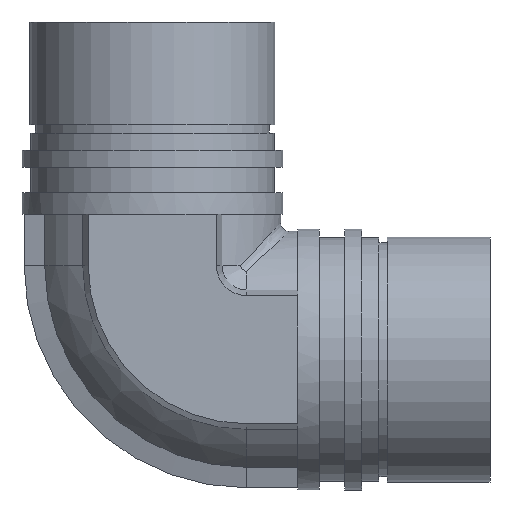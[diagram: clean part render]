
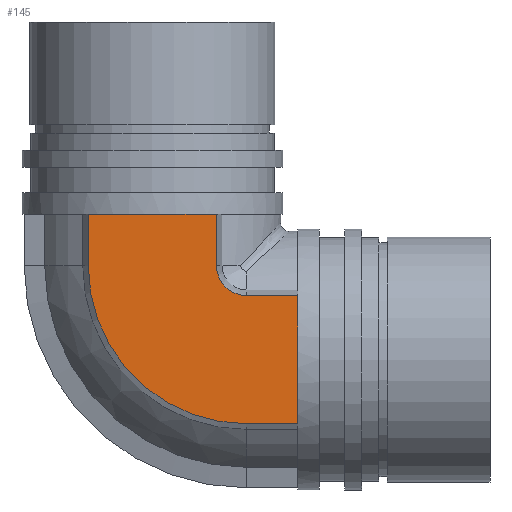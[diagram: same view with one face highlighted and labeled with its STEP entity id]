
A CAD part, front view. The second image highlights one B-rep face of the part: STEP entity #145.
In plain terms, the highlighted planar face has unit normal (0, -1, 0).
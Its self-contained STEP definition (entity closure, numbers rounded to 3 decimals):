
#145 = ADVANCED_FACE( '', ( #335 ), #336, .T. );
#335 = FACE_OUTER_BOUND( '', #813, .T. );
#336 = PLANE( '', #814 );
#813 = EDGE_LOOP( '', ( #1345, #1346, #1347, #1348, #1349, #1350, #1351, #1352, #1353, #1354, #1355, #1356 ) );
#814 = AXIS2_PLACEMENT_3D( '', #1357, #1358, #1359 );
#1345 = ORIENTED_EDGE( '', *, *, #1554, .F. );
#1346 = ORIENTED_EDGE( '', *, *, #1519, .F. );
#1347 = ORIENTED_EDGE( '', *, *, #1628, .F. );
#1348 = ORIENTED_EDGE( '', *, *, #1617, .T. );
#1349 = ORIENTED_EDGE( '', *, *, #1627, .F. );
#1350 = ORIENTED_EDGE( '', *, *, #1601, .F. );
#1351 = ORIENTED_EDGE( '', *, *, #1605, .F. );
#1352 = ORIENTED_EDGE( '', *, *, #1621, .F. );
#1353 = ORIENTED_EDGE( '', *, *, #1629, .T. );
#1354 = ORIENTED_EDGE( '', *, *, #1630, .T. );
#1355 = ORIENTED_EDGE( '', *, *, #1551, .F. );
#1356 = ORIENTED_EDGE( '', *, *, #1580, .F. );
#1357 = CARTESIAN_POINT( '', ( 11., -15., -7.5 ) );
#1358 = DIRECTION( '', ( 0., -1., 0. ) );
#1359 = DIRECTION( '', ( 0., 0., -1. ) );
#1519 = EDGE_CURVE( '', #1721, #1723, #1724, .T. );
#1551 = EDGE_CURVE( '', #1776, #1773, #1778, .T. );
#1554 = EDGE_CURVE( '', #1723, #1783, #1784, .T. );
#1580 = EDGE_CURVE( '', #1783, #1776, #1822, .T. );
#1601 = EDGE_CURVE( '', #1654, #1656, #1859, .T. );
#1605 = EDGE_CURVE( '', #1864, #1654, #1865, .T. );
#1617 = EDGE_CURVE( '', #1881, #1879, #1882, .T. );
#1621 = EDGE_CURVE( '', #1886, #1864, #1888, .T. );
#1627 = EDGE_CURVE( '', #1656, #1879, #1895, .T. );
#1628 = EDGE_CURVE( '', #1881, #1721, #1896, .T. );
#1629 = EDGE_CURVE( '', #1886, #1897, #1898, .T. );
#1630 = EDGE_CURVE( '', #1897, #1773, #1899, .T. );
#1654 = VERTEX_POINT( '', #1925 );
#1656 = VERTEX_POINT( '', #1927 );
#1721 = VERTEX_POINT( '', #2086 );
#1723 = VERTEX_POINT( '', #2089 );
#1724 = LINE( '', #2090, #2091 );
#1773 = VERTEX_POINT( '', #2167 );
#1776 = VERTEX_POINT( '', #2171 );
#1778 = LINE( '', #2173, #2174 );
#1783 = VERTEX_POINT( '', #2179 );
#1784 = LINE( '', #2180, #2181 );
#1822 = LINE( '', #2221, #2222 );
#1859 = LINE( '', #2265, #2266 );
#1864 = VERTEX_POINT( '', #2273 );
#1865 = LINE( '', #2274, #2275 );
#1879 = VERTEX_POINT( '', #2298 );
#1881 = VERTEX_POINT( '', #2301 );
#1882 = LINE( '', #2302, #2303 );
#1886 = VERTEX_POINT( '', #2309 );
#1888 = LINE( '', #2312, #2313 );
#1895 = LINE( '', #2322, #2323 );
#1896 = CIRCLE( '', #2324, 3.5 );
#1897 = VERTEX_POINT( '', #2325 );
#1898 = CIRCLE( '', #2326, 18.5 );
#1899 = LINE( '', #2327, #2328 );
#1925 = CARTESIAN_POINT( '', ( -2.75, -15., 17. ) );
#1927 = CARTESIAN_POINT( '', ( 2.75, -15., 17. ) );
#2086 = CARTESIAN_POINT( '', ( 11., -15., 7.5 ) );
#2089 = CARTESIAN_POINT( '', ( 17., -15., 7.5 ) );
#2090 = CARTESIAN_POINT( '', ( 11., -15., 7.5 ) );
#2091 = VECTOR( '', #2446, 1000. );
#2167 = CARTESIAN_POINT( '', ( 17., -15., -7.5 ) );
#2171 = CARTESIAN_POINT( '', ( 17., -15., -2.75 ) );
#2173 = CARTESIAN_POINT( '', ( 17., -15., -7.5 ) );
#2174 = VECTOR( '', #2484, 1000. );
#2179 = CARTESIAN_POINT( '', ( 17., -15., 2.75 ) );
#2180 = CARTESIAN_POINT( '', ( 17., -15., -7.5 ) );
#2181 = VECTOR( '', #2491, 1000. );
#2221 = CARTESIAN_POINT( '', ( 17., -15., -7.5 ) );
#2222 = VECTOR( '', #2563, 1000. );
#2265 = CARTESIAN_POINT( '', ( 7.5, -15., 17. ) );
#2266 = VECTOR( '', #2612, 1000. );
#2273 = CARTESIAN_POINT( '', ( -7.5, -15., 17. ) );
#2274 = CARTESIAN_POINT( '', ( 7.5, -15., 17. ) );
#2275 = VECTOR( '', #2618, 1000. );
#2298 = CARTESIAN_POINT( '', ( 7.5, -15., 17. ) );
#2301 = CARTESIAN_POINT( '', ( 7.5, -15., 11. ) );
#2302 = CARTESIAN_POINT( '', ( 7.5, -15., 11. ) );
#2303 = VECTOR( '', #2632, 1000. );
#2309 = CARTESIAN_POINT( '', ( -7.5, -15., 11. ) );
#2312 = CARTESIAN_POINT( '', ( -7.5, -15., 11. ) );
#2313 = VECTOR( '', #2636, 1000. );
#2322 = CARTESIAN_POINT( '', ( 7.5, -15., 17. ) );
#2323 = VECTOR( '', #2648, 1000. );
#2324 = AXIS2_PLACEMENT_3D( '', #2649, #2650, #2651 );
#2325 = CARTESIAN_POINT( '', ( 11., -15., -7.5 ) );
#2326 = AXIS2_PLACEMENT_3D( '', #2652, #2653, #2654 );
#2327 = CARTESIAN_POINT( '', ( 11., -15., -7.5 ) );
#2328 = VECTOR( '', #2655, 1000. );
#2446 = DIRECTION( '', ( 1., 0., 0. ) );
#2484 = DIRECTION( '', ( 0., 0., -1. ) );
#2491 = DIRECTION( '', ( 0., 0., -1. ) );
#2563 = DIRECTION( '', ( 0., 0., -1. ) );
#2612 = DIRECTION( '', ( 1., 0., 0. ) );
#2618 = DIRECTION( '', ( 1., 0., 0. ) );
#2632 = DIRECTION( '', ( 0., 0., 1. ) );
#2636 = DIRECTION( '', ( 0., 0., 1. ) );
#2648 = DIRECTION( '', ( 1., 0., 0. ) );
#2649 = CARTESIAN_POINT( '', ( 11., -15., 11. ) );
#2650 = DIRECTION( '', ( 0., -1., 0. ) );
#2651 = DIRECTION( '', ( 0., 0., -1. ) );
#2652 = CARTESIAN_POINT( '', ( 11., -15., 11. ) );
#2653 = DIRECTION( '', ( 0., -1., 0. ) );
#2654 = DIRECTION( '', ( 0., 0., -1. ) );
#2655 = DIRECTION( '', ( 1., 0., 0. ) );
